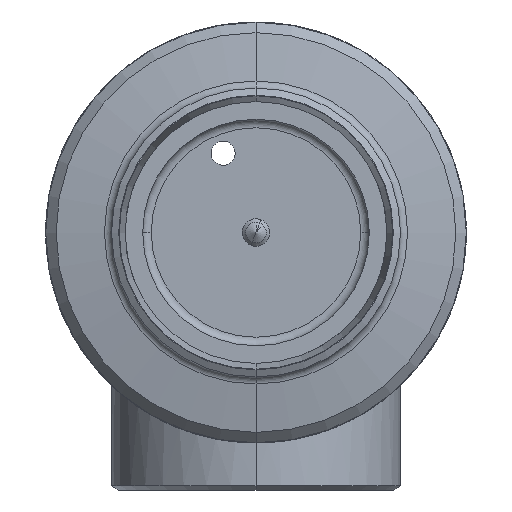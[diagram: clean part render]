
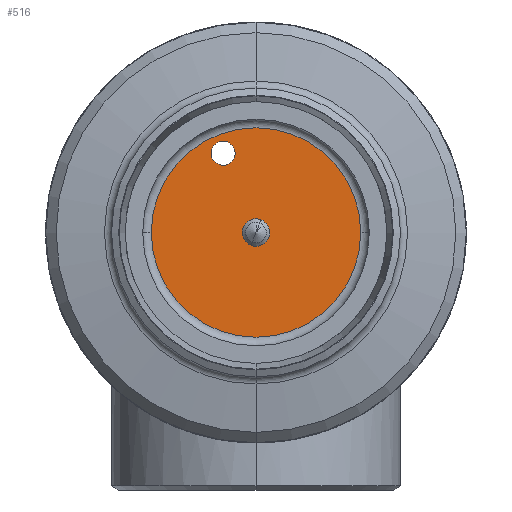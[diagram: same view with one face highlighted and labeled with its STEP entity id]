
A CAD part, front view. The second image highlights one B-rep face of the part: STEP entity #516.
In plain terms, the highlighted planar face has unit normal (0, -1, 0).
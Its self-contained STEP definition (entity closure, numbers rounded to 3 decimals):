
#59 = EDGE_LOOP ( 'NONE', ( #971, #901 ) ) ;
#69 = ORIENTED_EDGE ( 'NONE', *, *, #4736, .T. ) ;
#116 = EDGE_CURVE ( 'NONE', #4311, #4529, #1865, .T. ) ;
#141 = ORIENTED_EDGE ( 'NONE', *, *, #116, .T. ) ;
#290 = ORIENTED_EDGE ( 'NONE', *, *, #4895, .F. ) ;
#333 = ORIENTED_EDGE ( 'NONE', *, *, #541, .F. ) ;
#502 = EDGE_LOOP ( 'NONE', ( #141, #69 ) ) ;
#516 = ADVANCED_FACE ( 'NONE', ( #2124, #2125, #2126 ), #2127, .F. ) ;
#541 = EDGE_CURVE ( 'NONE', #5440, #5107, #2396, .T. ) ;
#876 = EDGE_LOOP ( 'NONE', ( #333, #290 ) ) ;
#901 = ORIENTED_EDGE ( 'NONE', *, *, #3771, .T. ) ;
#939 = EDGE_CURVE ( 'NONE', #3349, #3559, #2226, .T. ) ;
#971 = ORIENTED_EDGE ( 'NONE', *, *, #939, .T. ) ;
#1865 = CIRCLE ( 'NONE', #1866, 7. ) ;
#1866 = AXIS2_PLACEMENT_3D ( 'NONE', #1867, #1868, #1869 ) ;
#1867 = CARTESIAN_POINT ( 'NONE',  ( 19.134, 185.687, -46.194 ) ) ;
#1868 = DIRECTION ( 'NONE',  ( 0., 1., 0. ) ) ;
#1869 = DIRECTION ( 'NONE',  ( -1., 0., 0. ) ) ;
#1936 = CIRCLE ( 'NONE', #1937, 7. ) ;
#1937 = AXIS2_PLACEMENT_3D ( 'NONE', #1938, #1939, #1944 ) ;
#1938 = CARTESIAN_POINT ( 'NONE',  ( 19.134, 185.687, -46.194 ) ) ;
#1939 = DIRECTION ( 'NONE',  ( 0., 1., 0. ) ) ;
#1944 = DIRECTION ( 'NONE',  ( -1., 0., 0. ) ) ;
#2056 = CIRCLE ( 'NONE', #2057, 61. ) ;
#2057 = AXIS2_PLACEMENT_3D ( 'NONE', #2058, #2060, #2061 ) ;
#2058 = CARTESIAN_POINT ( 'NONE',  ( 0., 185.687, 0. ) ) ;
#2060 = DIRECTION ( 'NONE',  ( 0., 1., 0. ) ) ;
#2061 = DIRECTION ( 'NONE',  ( -1., 0., 0. ) ) ;
#2124 = FACE_BOUND ( 'NONE', #502, .T. ) ;
#2125 = FACE_BOUND ( 'NONE', #59, .T. ) ;
#2126 = FACE_OUTER_BOUND ( 'NONE', #876, .T. ) ;
#2127 = PLANE ( 'NONE',  #2128 ) ;
#2128 = AXIS2_PLACEMENT_3D ( 'NONE', #2132, #2133, #2134 ) ;
#2132 = CARTESIAN_POINT ( 'NONE',  ( 61., 185.687, 0. ) ) ;
#2133 = DIRECTION ( 'NONE',  ( 0., 1., 0. ) ) ;
#2134 = DIRECTION ( 'NONE',  ( -1., 0., 0. ) ) ;
#2226 = CIRCLE ( 'NONE', #2227, 7. ) ;
#2227 = AXIS2_PLACEMENT_3D ( 'NONE', #2228, #2229, #2230 ) ;
#2228 = CARTESIAN_POINT ( 'NONE',  ( 0., 185.687, 0. ) ) ;
#2229 = DIRECTION ( 'NONE',  ( 0., 1., 0. ) ) ;
#2230 = DIRECTION ( 'NONE',  ( -1., 0., 0. ) ) ;
#2277 = CARTESIAN_POINT ( 'NONE',  ( 61., 185.687, 0. ) ) ;
#2396 = CIRCLE ( 'NONE', #2397, 61. ) ;
#2397 = AXIS2_PLACEMENT_3D ( 'NONE', #2398, #2399, #2400 ) ;
#2398 = CARTESIAN_POINT ( 'NONE',  ( 0., 185.687, 0. ) ) ;
#2399 = DIRECTION ( 'NONE',  ( 0., 1., 0. ) ) ;
#2400 = DIRECTION ( 'NONE',  ( -1., 0., 0. ) ) ;
#2585 = CARTESIAN_POINT ( 'NONE',  ( -61., 185.687, 0. ) ) ;
#3349 = VERTEX_POINT ( 'NONE', #5784 ) ;
#3559 = VERTEX_POINT ( 'NONE', #5903 ) ;
#3771 = EDGE_CURVE ( 'NONE', #3559, #3349, #6002, .T. ) ;
#4311 = VERTEX_POINT ( 'NONE', #6210 ) ;
#4529 = VERTEX_POINT ( 'NONE', #6374 ) ;
#4736 = EDGE_CURVE ( 'NONE', #4529, #4311, #1936, .T. ) ;
#4895 = EDGE_CURVE ( 'NONE', #5107, #5440, #2056, .T. ) ;
#5107 = VERTEX_POINT ( 'NONE', #2277 ) ;
#5440 = VERTEX_POINT ( 'NONE', #2585 ) ;
#5784 = CARTESIAN_POINT ( 'NONE',  ( 0., 185.687, 7. ) ) ;
#5903 = CARTESIAN_POINT ( 'NONE',  ( 0., 185.687, -7. ) ) ;
#6002 = CIRCLE ( 'NONE', #6003, 7. ) ;
#6003 = AXIS2_PLACEMENT_3D ( 'NONE', #6004, #6005, #6006 ) ;
#6004 = CARTESIAN_POINT ( 'NONE',  ( 0., 185.687, 0. ) ) ;
#6005 = DIRECTION ( 'NONE',  ( 0., 1., 0. ) ) ;
#6006 = DIRECTION ( 'NONE',  ( -1., 0., 0. ) ) ;
#6210 = CARTESIAN_POINT ( 'NONE',  ( 19.134, 185.687, -39.194 ) ) ;
#6374 = CARTESIAN_POINT ( 'NONE',  ( 19.134, 185.687, -53.194 ) ) ;
